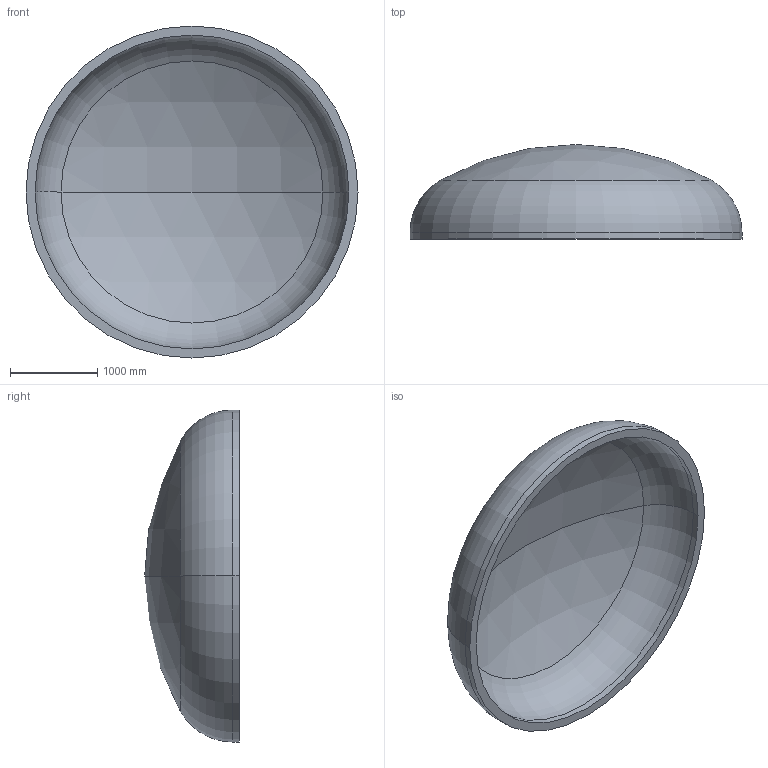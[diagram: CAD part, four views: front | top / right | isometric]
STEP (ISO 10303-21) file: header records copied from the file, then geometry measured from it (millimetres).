
FILE_DESCRIPTION (( 'STEP AP203' ), '1' );
FILE_NAME ('DIN 28013 Korbbogenform_-_Boden DIN 28013 - 3800 x 75 - I - s=104.step', '2016-07-01T21:49:36', ( '' ), ( '' ), 'SwSTEP 2.0', 'SolidWorks 2013', '' );
FILE_SCHEMA (( 'CONFIG_CONTROL_DESIGN' ));
Length unit declared in the file: millimetre
Products named in the file (1): DIN 28013 Korbbogenform_-_Boden DIN 28013 - 3800 x 75 - I - s=104
Bounding box: 3800 x 1083.47 x 3800 mm (x, y, z)
Volume: 1666528236.9 mm3; surface area: 33278839.8 mm2
Topology: 1 solids, 1 shells, 13 faces, 24 edges, 14 vertices
Faces by surface type: torus 4, cylinder 4, sphere 4, plane 1
Entity records: 407 total; most frequent: DIRECTION 72, CARTESIAN_POINT 52, ORIENTED_EDGE 48, AXIS2_PLACEMENT_3D 34, EDGE_CURVE 24, CIRCLE 20, VERTEX_POINT 14, EDGE_LOOP 14
